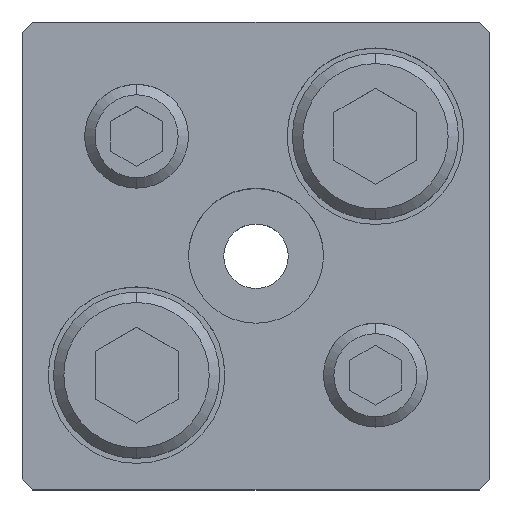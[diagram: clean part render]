
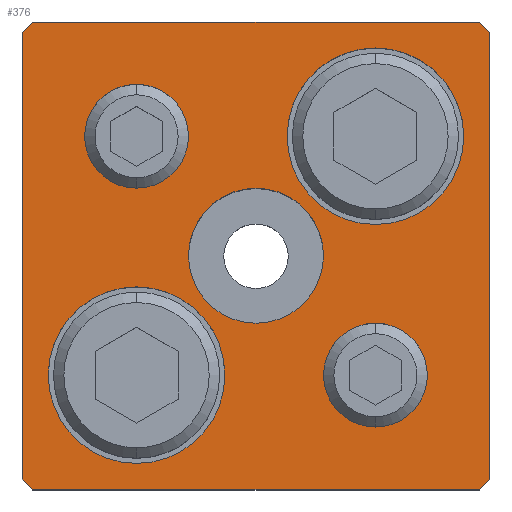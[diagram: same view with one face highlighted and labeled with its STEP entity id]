
A CAD part, top view. The second image highlights one B-rep face of the part: STEP entity #376.
In plain terms, the highlighted planar face has unit normal (0, 0, 1).
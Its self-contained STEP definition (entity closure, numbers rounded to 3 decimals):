
#139=PLANE('',#2852);
#200=FACE_BOUND('',#707,.T.);
#201=FACE_BOUND('',#708,.T.);
#202=FACE_BOUND('',#709,.T.);
#203=FACE_BOUND('',#710,.T.);
#204=FACE_BOUND('',#711,.T.);
#205=FACE_BOUND('',#712,.T.);
#376=ADVANCED_FACE('',(#200,#201,#202,#203,#204,#205),#139,.T.);
#707=EDGE_LOOP('',(#1263,#1264,#1265,#1266,#1267,#1268,#1269,#1270));
#708=EDGE_LOOP('',(#1271,#1272));
#709=EDGE_LOOP('',(#1273,#1274));
#710=EDGE_LOOP('',(#1275,#1276));
#711=EDGE_LOOP('',(#1277,#1278));
#712=EDGE_LOOP('',(#1279,#1280));
#881=CIRCLE('',#2822,5.);
#883=CIRCLE('',#2825,5.);
#885=CIRCLE('',#2828,5.);
#887=CIRCLE('',#2831,5.);
#897=CIRCLE('',#2846,8.5);
#898=CIRCLE('',#2847,8.5);
#899=CIRCLE('',#2848,8.5);
#900=CIRCLE('',#2849,8.5);
#901=CIRCLE('',#2850,6.5);
#902=CIRCLE('',#2851,6.5);
#1263=ORIENTED_EDGE('',*,*,#2069,.T.);
#1264=ORIENTED_EDGE('',*,*,#2070,.T.);
#1265=ORIENTED_EDGE('',*,*,#2071,.T.);
#1266=ORIENTED_EDGE('',*,*,#2072,.T.);
#1267=ORIENTED_EDGE('',*,*,#2073,.T.);
#1268=ORIENTED_EDGE('',*,*,#2074,.T.);
#1269=ORIENTED_EDGE('',*,*,#2075,.T.);
#1270=ORIENTED_EDGE('',*,*,#2076,.T.);
#1271=ORIENTED_EDGE('',*,*,#2077,.F.);
#1272=ORIENTED_EDGE('',*,*,#2078,.F.);
#1273=ORIENTED_EDGE('',*,*,#2079,.F.);
#1274=ORIENTED_EDGE('',*,*,#2080,.F.);
#1275=ORIENTED_EDGE('',*,*,#2055,.F.);
#1276=ORIENTED_EDGE('',*,*,#2051,.F.);
#1277=ORIENTED_EDGE('',*,*,#2049,.F.);
#1278=ORIENTED_EDGE('',*,*,#2045,.F.);
#1279=ORIENTED_EDGE('',*,*,#2081,.T.);
#1280=ORIENTED_EDGE('',*,*,#2082,.T.);
#1763=VERTEX_POINT('',#4143);
#1764=VERTEX_POINT('',#4144);
#1767=VERTEX_POINT('',#4155);
#1768=VERTEX_POINT('',#4156);
#1779=VERTEX_POINT('',#4191);
#1780=VERTEX_POINT('',#4192);
#1781=VERTEX_POINT('',#4194);
#1782=VERTEX_POINT('',#4196);
#1783=VERTEX_POINT('',#4198);
#1784=VERTEX_POINT('',#4200);
#1785=VERTEX_POINT('',#4202);
#1786=VERTEX_POINT('',#4204);
#1787=VERTEX_POINT('',#4207);
#1788=VERTEX_POINT('',#4208);
#1789=VERTEX_POINT('',#4211);
#1790=VERTEX_POINT('',#4212);
#1791=VERTEX_POINT('',#4215);
#1792=VERTEX_POINT('',#4216);
#2045=EDGE_CURVE('',#1763,#1764,#881,.T.);
#2049=EDGE_CURVE('',#1764,#1763,#883,.T.);
#2051=EDGE_CURVE('',#1767,#1768,#885,.T.);
#2055=EDGE_CURVE('',#1768,#1767,#887,.T.);
#2069=EDGE_CURVE('',#1779,#1780,#2347,.T.);
#2070=EDGE_CURVE('',#1780,#1781,#2348,.T.);
#2071=EDGE_CURVE('',#1781,#1782,#2349,.T.);
#2072=EDGE_CURVE('',#1782,#1783,#2350,.T.);
#2073=EDGE_CURVE('',#1783,#1784,#2351,.T.);
#2074=EDGE_CURVE('',#1784,#1785,#2352,.T.);
#2075=EDGE_CURVE('',#1785,#1786,#2353,.T.);
#2076=EDGE_CURVE('',#1786,#1779,#2354,.T.);
#2077=EDGE_CURVE('',#1787,#1788,#897,.T.);
#2078=EDGE_CURVE('',#1788,#1787,#898,.T.);
#2079=EDGE_CURVE('',#1789,#1790,#899,.T.);
#2080=EDGE_CURVE('',#1790,#1789,#900,.T.);
#2081=EDGE_CURVE('',#1791,#1792,#901,.T.);
#2082=EDGE_CURVE('',#1792,#1791,#902,.T.);
#2347=LINE('',#4190,#2563);
#2348=LINE('',#4193,#2564);
#2349=LINE('',#4195,#2565);
#2350=LINE('',#4197,#2566);
#2351=LINE('',#4199,#2567);
#2352=LINE('',#4201,#2568);
#2353=LINE('',#4203,#2569);
#2354=LINE('',#4205,#2570);
#2563=VECTOR('',#3379,1.);
#2564=VECTOR('',#3380,1.);
#2565=VECTOR('',#3381,1.);
#2566=VECTOR('',#3382,1.);
#2567=VECTOR('',#3383,1.);
#2568=VECTOR('',#3384,1.);
#2569=VECTOR('',#3385,1.);
#2570=VECTOR('',#3386,1.);
#2822=AXIS2_PLACEMENT_3D('',#4142,#3323,#3324);
#2825=AXIS2_PLACEMENT_3D('',#4151,#3331,#3332);
#2828=AXIS2_PLACEMENT_3D('',#4154,#3337,#3338);
#2831=AXIS2_PLACEMENT_3D('',#4163,#3345,#3346);
#2846=AXIS2_PLACEMENT_3D('',#4206,#3387,#3388);
#2847=AXIS2_PLACEMENT_3D('',#4209,#3389,#3390);
#2848=AXIS2_PLACEMENT_3D('',#4210,#3391,#3392);
#2849=AXIS2_PLACEMENT_3D('',#4213,#3393,#3394);
#2850=AXIS2_PLACEMENT_3D('',#4214,#3395,#3396);
#2851=AXIS2_PLACEMENT_3D('',#4217,#3397,#3398);
#2852=AXIS2_PLACEMENT_3D('',#4218,#3399,#3400);
#3323=DIRECTION('',(0.,0.,1.));
#3324=DIRECTION('',(1.,0.,0.));
#3331=DIRECTION('',(0.,0.,1.));
#3332=DIRECTION('',(-1.,0.,0.));
#3337=DIRECTION('',(0.,0.,1.));
#3338=DIRECTION('',(1.,0.,0.));
#3345=DIRECTION('',(0.,0.,1.));
#3346=DIRECTION('',(-1.,0.,0.));
#3379=DIRECTION('',(1.,0.,0.));
#3380=DIRECTION('',(0.707,0.707,0.));
#3381=DIRECTION('',(0.,1.,0.));
#3382=DIRECTION('',(-0.707,0.707,0.));
#3383=DIRECTION('',(-1.,0.,0.));
#3384=DIRECTION('',(-0.707,-0.707,0.));
#3385=DIRECTION('',(0.,-1.,0.));
#3386=DIRECTION('',(0.707,-0.707,0.));
#3387=DIRECTION('',(0.,0.,1.));
#3388=DIRECTION('',(1.,0.,0.));
#3389=DIRECTION('',(0.,0.,1.));
#3390=DIRECTION('',(-1.,0.,0.));
#3391=DIRECTION('',(0.,0.,1.));
#3392=DIRECTION('',(1.,0.,0.));
#3393=DIRECTION('',(0.,0.,1.));
#3394=DIRECTION('',(-1.,0.,0.));
#3395=DIRECTION('',(0.,0.,-1.));
#3396=DIRECTION('',(-1.,0.,0.));
#3397=DIRECTION('',(0.,0.,-1.));
#3398=DIRECTION('',(1.,0.,0.));
#3399=DIRECTION('',(0.,0.,1.));
#3400=DIRECTION('',(-1.,0.,0.));
#4142=CARTESIAN_POINT('',(11.5,-11.5,35.));
#4143=CARTESIAN_POINT('',(11.5,-6.5,35.));
#4144=CARTESIAN_POINT('',(11.5,-16.5,35.));
#4151=CARTESIAN_POINT('',(11.5,-11.5,35.));
#4154=CARTESIAN_POINT('',(-11.5,11.5,35.));
#4155=CARTESIAN_POINT('',(-11.5,16.5,35.));
#4156=CARTESIAN_POINT('',(-11.5,6.5,35.));
#4163=CARTESIAN_POINT('',(-11.5,11.5,35.));
#4190=CARTESIAN_POINT('',(21.5,-22.5,35.));
#4191=CARTESIAN_POINT('',(-21.5,-22.5,35.));
#4192=CARTESIAN_POINT('',(21.5,-22.5,35.));
#4193=CARTESIAN_POINT('',(22.5,-21.5,35.));
#4194=CARTESIAN_POINT('',(22.5,-21.5,35.));
#4195=CARTESIAN_POINT('',(22.5,21.5,35.));
#4196=CARTESIAN_POINT('',(22.5,21.5,35.));
#4197=CARTESIAN_POINT('',(21.5,22.5,35.));
#4198=CARTESIAN_POINT('',(21.5,22.5,35.));
#4199=CARTESIAN_POINT('',(-21.5,22.5,35.));
#4200=CARTESIAN_POINT('',(-21.5,22.5,35.));
#4201=CARTESIAN_POINT('',(-22.5,21.5,35.));
#4202=CARTESIAN_POINT('',(-22.5,21.5,35.));
#4203=CARTESIAN_POINT('',(-22.5,-21.5,35.));
#4204=CARTESIAN_POINT('',(-22.5,-21.5,35.));
#4205=CARTESIAN_POINT('',(-22.5,-21.5,35.));
#4206=CARTESIAN_POINT('',(-11.5,-11.5,35.));
#4207=CARTESIAN_POINT('',(-11.5,-3.,35.));
#4208=CARTESIAN_POINT('',(-11.5,-20.,35.));
#4209=CARTESIAN_POINT('',(-11.5,-11.5,35.));
#4210=CARTESIAN_POINT('',(11.5,11.5,35.));
#4211=CARTESIAN_POINT('',(11.5,20.,35.));
#4212=CARTESIAN_POINT('',(11.5,3.,35.));
#4213=CARTESIAN_POINT('',(11.5,11.5,35.));
#4214=CARTESIAN_POINT('',(0.,0.,35.));
#4215=CARTESIAN_POINT('',(0.,6.5,35.));
#4216=CARTESIAN_POINT('',(0.,-6.5,35.));
#4217=CARTESIAN_POINT('',(0.,0.,35.));
#4218=CARTESIAN_POINT('',(-21.5,-22.5,35.));
